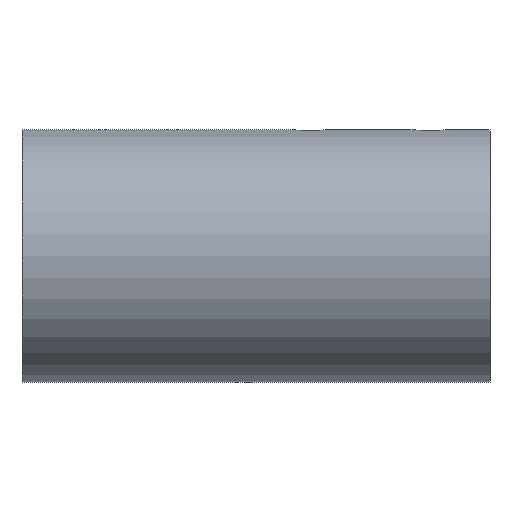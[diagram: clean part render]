
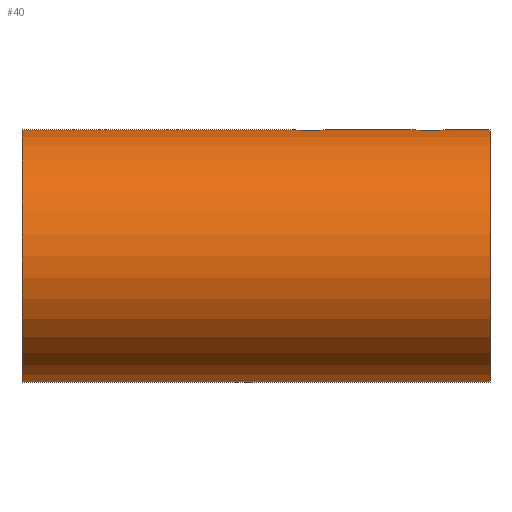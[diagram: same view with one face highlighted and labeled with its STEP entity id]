
A CAD part, top view. The second image highlights one B-rep face of the part: STEP entity #40.
In plain terms, the highlighted cylindrical face has radius 21.082 mm (diameter 42.164 mm), a partial arc.
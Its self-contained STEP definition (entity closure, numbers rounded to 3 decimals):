
#40=ADVANCED_FACE('',(#50),#126,.T.);
#50=FACE_OUTER_BOUND('',#62,.F.);
#62=EDGE_LOOP('',(#99,#100,#101,#102,#103,#104,#105,#106));
#99=ORIENTED_EDGE('',*,*,#198,.F.);
#100=ORIENTED_EDGE('',*,*,#203,.T.);
#101=ORIENTED_EDGE('',*,*,#199,.T.);
#102=ORIENTED_EDGE('',*,*,#188,.T.);
#103=ORIENTED_EDGE('',*,*,#186,.T.);
#104=ORIENTED_EDGE('',*,*,#182,.T.);
#105=ORIENTED_EDGE('',*,*,#180,.T.);
#106=ORIENTED_EDGE('',*,*,#202,.T.);
#126=CYLINDRICAL_SURFACE('',#263,21.082);
#170=CIRCLE('',#256,21.082);
#171=CIRCLE('',#257,21.082);
#172=B_SPLINE_CURVE_WITH_KNOTS('',3,(#340,#341,#342,#343,#344,#345,#346,
#347,#348,#349,#350,#351,#352,#353),.UNSPECIFIED.,.F.,.F.,(4,1,1,1,1,1,1,
1,1,1,1,4),(0.,0.106,0.182,0.273,0.364,
0.455,0.545,0.636,0.727,0.818,
0.894,1.),.UNSPECIFIED.);
#176=B_SPLINE_CURVE_WITH_KNOTS('',3,(#398,#399,#400,#401,#402,#403,#404,
#405,#406,#407,#408,#409,#410,#411),.UNSPECIFIED.,.F.,.F.,(4,1,1,1,1,1,1,
1,1,1,1,4),(0.,0.106,0.182,0.273,0.364,
0.455,0.545,0.636,0.727,
0.818,0.894,1.),.UNSPECIFIED.);
#180=EDGE_CURVE('',#247,#246,#208,.T.);
#182=EDGE_CURVE('',#243,#247,#172,.T.);
#186=EDGE_CURVE('',#241,#243,#210,.T.);
#188=EDGE_CURVE('',#238,#241,#176,.T.);
#198=EDGE_CURVE('',#232,#234,#214,.T.);
#199=EDGE_CURVE('',#233,#238,#215,.T.);
#202=EDGE_CURVE('',#246,#234,#170,.T.);
#203=EDGE_CURVE('',#232,#233,#171,.T.);
#208=LINE('',#338,#220);
#210=LINE('',#396,#222);
#214=LINE('',#460,#226);
#215=LINE('',#461,#227);
#220=VECTOR('',#271,7.);
#222=VECTOR('',#273,14.);
#226=VECTOR('',#285,78.);
#227=VECTOR('',#286,45.);
#232=VERTEX_POINT('',#322);
#233=VERTEX_POINT('',#323);
#234=VERTEX_POINT('',#324);
#238=VERTEX_POINT('',#328);
#241=VERTEX_POINT('',#331);
#243=VERTEX_POINT('',#333);
#246=VERTEX_POINT('',#336);
#247=VERTEX_POINT('',#337);
#256=AXIS2_PLACEMENT_3D('',#464,#291,#292);
#257=AXIS2_PLACEMENT_3D('',#465,#293,#294);
#263=AXIS2_PLACEMENT_3D('',#475,#309,#310);
#271=DIRECTION('',(1.,0.,0.));
#273=DIRECTION('',(1.,0.,0.));
#285=DIRECTION('',(1.,0.,0.));
#286=DIRECTION('',(1.,0.,0.));
#291=DIRECTION('',(1.,0.,0.));
#292=DIRECTION('',(0.,1.,0.));
#293=DIRECTION('',(-1.,0.,0.));
#294=DIRECTION('',(0.,-1.,0.));
#309=DIRECTION('',(1.,0.,0.));
#310=DIRECTION('',(0.,1.,0.));
#322=CARTESIAN_POINT('',(1049.375,398.17,-408.126));
#323=CARTESIAN_POINT('',(1049.375,440.334,-408.126));
#324=CARTESIAN_POINT('',(1127.375,398.17,-408.126));
#328=CARTESIAN_POINT('',(1094.375,440.334,-408.126));
#331=CARTESIAN_POINT('',(1100.375,440.334,-408.126));
#333=CARTESIAN_POINT('',(1114.375,440.334,-408.126));
#336=CARTESIAN_POINT('',(1127.375,440.334,-408.126));
#337=CARTESIAN_POINT('',(1120.375,440.334,-408.126));
#338=CARTESIAN_POINT('',(1120.375,440.334,-408.126));
#340=CARTESIAN_POINT('',(1114.375,440.334,-408.126));
#341=CARTESIAN_POINT('',(1114.375,440.334,-407.793));
#342=CARTESIAN_POINT('',(1114.471,440.32,-407.224));
#343=CARTESIAN_POINT('',(1114.848,440.271,-406.446));
#344=CARTESIAN_POINT('',(1115.382,440.211,-405.829));
#345=CARTESIAN_POINT('',(1116.11,440.153,-405.361));
#346=CARTESIAN_POINT('',(1116.941,440.118,-405.116));
#347=CARTESIAN_POINT('',(1117.809,440.118,-405.116));
#348=CARTESIAN_POINT('',(1118.64,440.153,-405.361));
#349=CARTESIAN_POINT('',(1119.368,440.211,-405.829));
#350=CARTESIAN_POINT('',(1119.902,440.271,-406.446));
#351=CARTESIAN_POINT('',(1120.279,440.32,-407.224));
#352=CARTESIAN_POINT('',(1120.375,440.334,-407.793));
#353=CARTESIAN_POINT('',(1120.375,440.334,-408.126));
#396=CARTESIAN_POINT('',(1100.375,440.334,-408.126));
#398=CARTESIAN_POINT('',(1094.375,440.334,-408.126));
#399=CARTESIAN_POINT('',(1094.375,440.334,-407.793));
#400=CARTESIAN_POINT('',(1094.471,440.32,-407.224));
#401=CARTESIAN_POINT('',(1094.848,440.271,-406.446));
#402=CARTESIAN_POINT('',(1095.382,440.211,-405.829));
#403=CARTESIAN_POINT('',(1096.11,440.153,-405.361));
#404=CARTESIAN_POINT('',(1096.941,440.118,-405.116));
#405=CARTESIAN_POINT('',(1097.809,440.118,-405.116));
#406=CARTESIAN_POINT('',(1098.64,440.153,-405.361));
#407=CARTESIAN_POINT('',(1099.368,440.211,-405.829));
#408=CARTESIAN_POINT('',(1099.902,440.271,-406.446));
#409=CARTESIAN_POINT('',(1100.279,440.32,-407.224));
#410=CARTESIAN_POINT('',(1100.375,440.334,-407.793));
#411=CARTESIAN_POINT('',(1100.375,440.334,-408.126));
#460=CARTESIAN_POINT('',(1049.375,398.17,-408.126));
#461=CARTESIAN_POINT('',(1049.375,440.334,-408.126));
#464=CARTESIAN_POINT('',(1127.375,419.252,-408.126));
#465=CARTESIAN_POINT('',(1049.375,419.252,-408.126));
#475=CARTESIAN_POINT('',(1049.375,419.252,-408.126));
